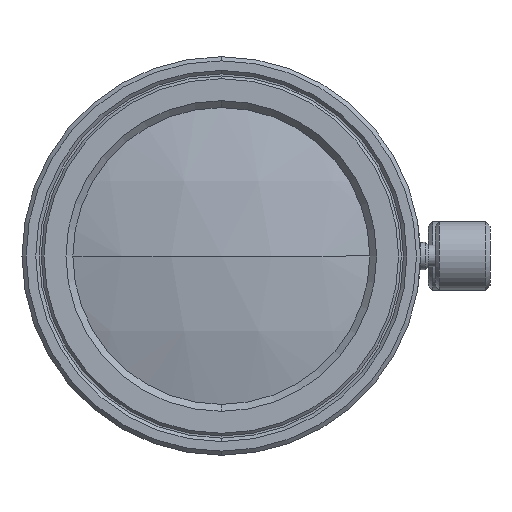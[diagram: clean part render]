
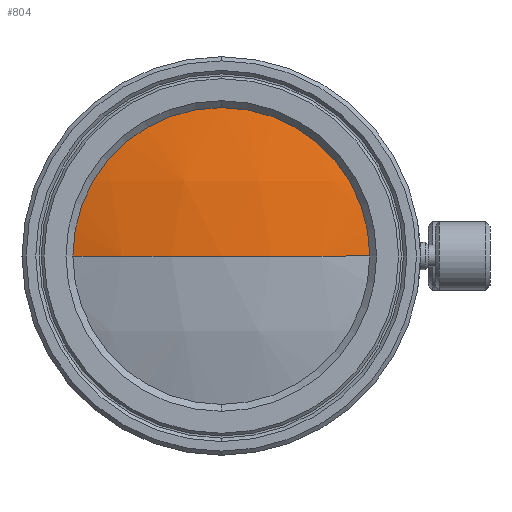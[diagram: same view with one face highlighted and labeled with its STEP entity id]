
A CAD part, left-side view. The second image highlights one B-rep face of the part: STEP entity #804.
In plain terms, the highlighted spherical face has radius 38.99 mm.
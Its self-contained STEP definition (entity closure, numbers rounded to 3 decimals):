
#13 = DIRECTION ( 'NONE',  ( 0., 0., -1. ) ) ;
#73 = CARTESIAN_POINT ( 'NONE',  ( -52.454, 0., 0. ) ) ;
#214 = CARTESIAN_POINT ( 'NONE',  ( -52.454, 0., 10.8 ) ) ;
#215 = VERTEX_POINT ( 'NONE', #3517 ) ;
#284 = EDGE_LOOP ( 'NONE', ( #1309, #2441, #3430, #3014 ) ) ;
#308 = DIRECTION ( 'NONE',  ( 0., 1., 0. ) ) ;
#339 = DIRECTION ( 'NONE',  ( 0., 0., -1. ) ) ;
#606 = CIRCLE ( 'NONE', #613, 38.99 ) ;
#613 = AXIS2_PLACEMENT_3D ( 'NONE', #1648, #13, #1922 ) ;
#629 = AXIS2_PLACEMENT_3D ( 'NONE', #3106, #1471, #3368 ) ;
#804 = ADVANCED_FACE ( 'NONE', ( #3140 ), #1524, .T. ) ;
#1123 = DIRECTION ( 'NONE',  ( 0., 0., 1. ) ) ;
#1255 = EDGE_CURVE ( 'NONE', #1579, #2455, #3292, .T. ) ;
#1309 = ORIENTED_EDGE ( 'NONE', *, *, #1439, .F. ) ;
#1402 = CARTESIAN_POINT ( 'NONE',  ( -52.454, -10.8, 0. ) ) ;
#1410 = CARTESIAN_POINT ( 'NONE',  ( -52.454, 10.8, 0. ) ) ;
#1439 = EDGE_CURVE ( 'NONE', #215, #2759, #606, .T. ) ;
#1471 = DIRECTION ( 'NONE',  ( 0., 0., 1. ) ) ;
#1524 = SPHERICAL_SURFACE ( 'NONE', #1925, 38.99 ) ;
#1579 = VERTEX_POINT ( 'NONE', #214 ) ;
#1625 = CIRCLE ( 'NONE', #629, 38.99 ) ;
#1648 = CARTESIAN_POINT ( 'NONE',  ( -14.99, 0., 0. ) ) ;
#1799 = AXIS2_PLACEMENT_3D ( 'NONE', #2780, #2252, #3340 ) ;
#1922 = DIRECTION ( 'NONE',  ( -1., 0., 0. ) ) ;
#1925 = AXIS2_PLACEMENT_3D ( 'NONE', #2204, #1123, #308 ) ;
#1972 = DIRECTION ( 'NONE',  ( 1., 0., 0. ) ) ;
#2046 = AXIS2_PLACEMENT_3D ( 'NONE', #73, #1972, #339 ) ;
#2204 = CARTESIAN_POINT ( 'NONE',  ( -14.99, 0., 0. ) ) ;
#2252 = DIRECTION ( 'NONE',  ( 1., 0., 0. ) ) ;
#2259 = CIRCLE ( 'NONE', #2046, 10.8 ) ;
#2441 = ORIENTED_EDGE ( 'NONE', *, *, #2888, .T. ) ;
#2453 = EDGE_CURVE ( 'NONE', #2759, #1579, #2259, .T. ) ;
#2455 = VERTEX_POINT ( 'NONE', #1402 ) ;
#2759 = VERTEX_POINT ( 'NONE', #1410 ) ;
#2780 = CARTESIAN_POINT ( 'NONE',  ( -52.454, 0., 0. ) ) ;
#2888 = EDGE_CURVE ( 'NONE', #215, #2455, #1625, .T. ) ;
#3014 = ORIENTED_EDGE ( 'NONE', *, *, #2453, .F. ) ;
#3106 = CARTESIAN_POINT ( 'NONE',  ( -14.99, 0., 0. ) ) ;
#3140 = FACE_OUTER_BOUND ( 'NONE', #284, .T. ) ;
#3292 = CIRCLE ( 'NONE', #1799, 10.8 ) ;
#3340 = DIRECTION ( 'NONE',  ( 0., 0., -1. ) ) ;
#3368 = DIRECTION ( 'NONE',  ( 0., -1., 0. ) ) ;
#3430 = ORIENTED_EDGE ( 'NONE', *, *, #1255, .F. ) ;
#3517 = CARTESIAN_POINT ( 'NONE',  ( -53.98, 0., 0. ) ) ;
